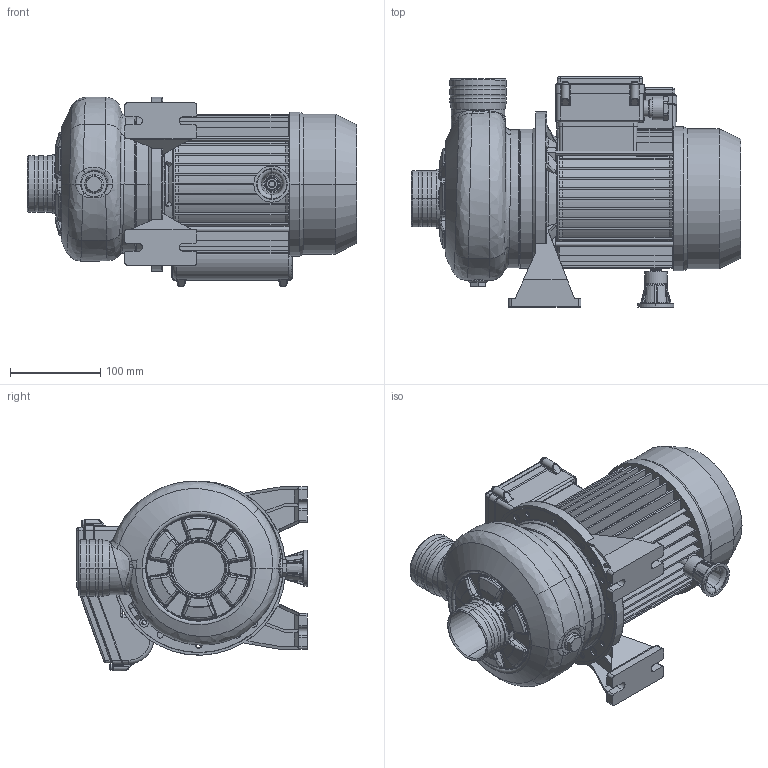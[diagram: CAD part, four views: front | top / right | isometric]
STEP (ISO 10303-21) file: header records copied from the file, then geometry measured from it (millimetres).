
FILE_DESCRIPTION((''),'2;1');
FILE_NAME('DWO_150M_ASM','2017-12-20T',('rosa'),('"Ebara Pumps Europe +39.444.706811"'),'PRO/ENGINEER BY PARAMETRIC TECHNOLOGY CORPORATION, 2012130','PRO/ENGINEER BY PARAMETRIC TECHNOLOGY CORPORATION, 2012130','');
FILE_SCHEMA(('AUTOMOTIVE_DESIGN { 1 0 10303 214 1 1 1 1 }'));
Length unit declared in the file: millimetre
Products named in the file (13): MEC_80_MONOFASE; 80596; 251420990; 62036; 62035; 10053; 76006; 40032; 20992_ASM; 72011; 72028; COPRIMORSETTIERA_MEC80_90_M; DWO_150M_ASM
Assembly tree (14 placements, depth 3):
  DWO_150M_ASM
    MEC_80_MONOFASE
    80596
    20992_ASM
      251420990
      62036
      62035
      10053
      76006  x2
      40032  x2
    72011
    72028
    COPRIMORSETTIERA_MEC80_90_M
Bounding box: 365 x 255 x 210.45 mm (x, y, z)
Volume: 3408716.2 mm3; surface area: 702919 mm2
Topology: 13 solids, 13 shells, 1570 faces, 3784 edges, 2268 vertices
Faces by surface type: plane 473, cylinder 413, bspline 314, torus 193, cone 149, sphere 24, extrusion 4
Entity records: 76384 total; most frequent: CARTESIAN_POINT 28830, ORIENTED_EDGE 7436, DIRECTION 6789, EDGE_CURVE 3718, PRESENTATION_STYLE_ASSIGNMENT 3672, STYLED_ITEM 3672, CURVE_STYLE 3662, AXIS2_PLACEMENT_3D 2755
